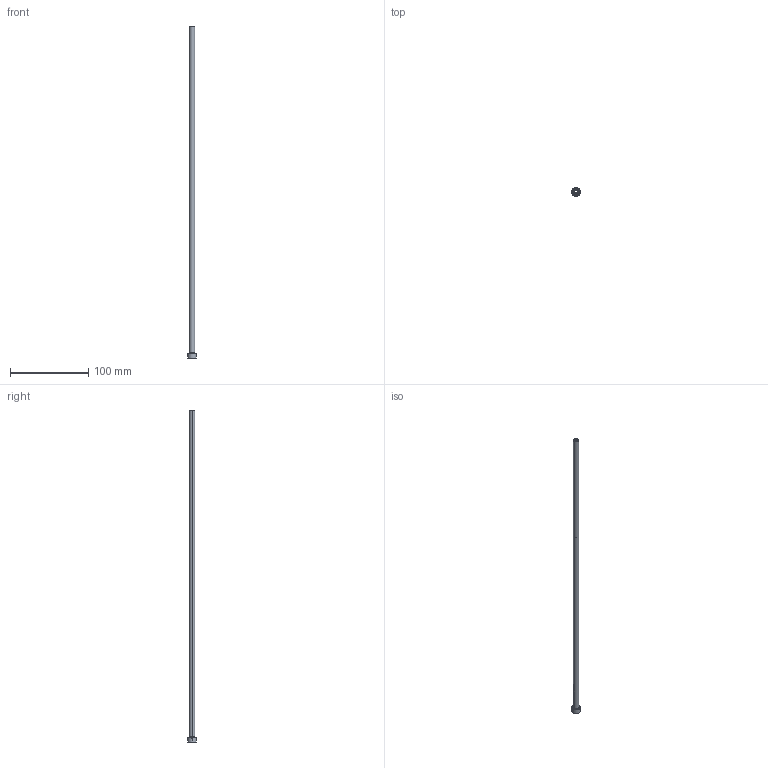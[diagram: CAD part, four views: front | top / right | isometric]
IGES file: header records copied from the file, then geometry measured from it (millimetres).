
Start section: SolidWorks IGES file using analytic representation for surfaces
Global section: file name: D:\Ref Drgs\JES Sleeve\3-45_425-450\JES-45-7-425\JES-45-7-425.IGS; native system: SolidWorks 2017; preprocessor: SolidWorks 2017; author: RK; date: 170620.164950; units: millimetre
Bounding box: 11 x 11 x 425 mm (x, y, z)
Surface area: 16008.2 mm2 (no closed solid volume)
Topology: 0 solids, 0 shells, 17 faces, 248 edges, 248 vertices
Faces by surface type: revolution 12, bspline 5
